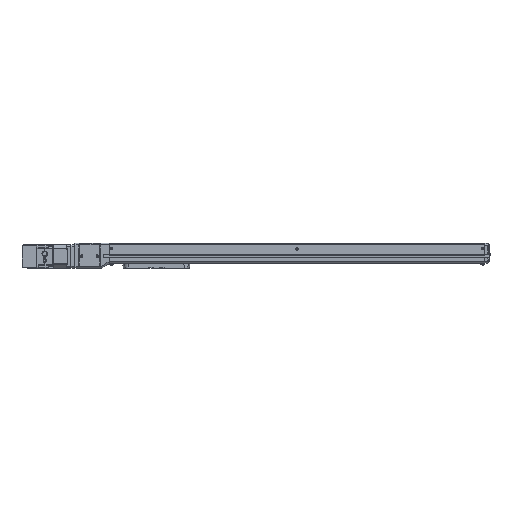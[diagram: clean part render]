
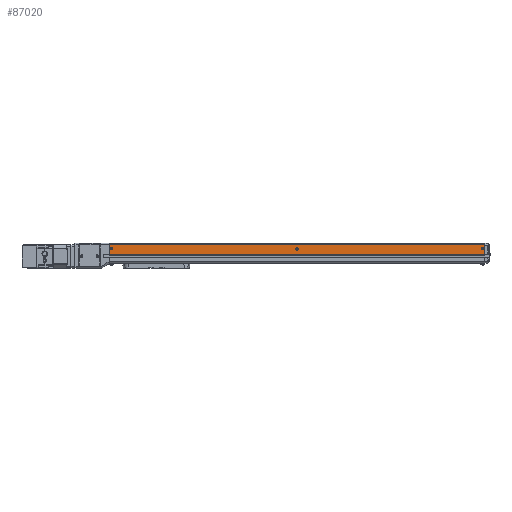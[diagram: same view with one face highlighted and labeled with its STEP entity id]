
A CAD part, top view. The second image highlights one B-rep face of the part: STEP entity #87020.
In plain terms, the highlighted planar face has unit normal (0, 0, 1) as drawn and (0, 0, -1) by its records, which use the part's own axes.
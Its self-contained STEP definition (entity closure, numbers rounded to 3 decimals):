
#68400 = PLANE('',#68401);
#68401 = AXIS2_PLACEMENT_3D('',#68402,#68403,#68404);
#68402 = CARTESIAN_POINT('',(-676.5,1.25,21.3));
#68403 = DIRECTION('',(1.,0.,0.));
#68404 = DIRECTION('',(0.,0.,-1.));
#68828 = PLANE('',#68829);
#68829 = AXIS2_PLACEMENT_3D('',#68830,#68831,#68832);
#68830 = CARTESIAN_POINT('',(-9.5,1.25,21.3));
#68831 = DIRECTION('',(1.,0.,0.));
#68832 = DIRECTION('',(0.,0.,-1.));
#86213 = VERTEX_POINT('',#86214);
#86214 = CARTESIAN_POINT('',(-676.5,-2.65,-21.5));
#86231 = CYLINDRICAL_SURFACE('',#86232,0.2);
#86232 = AXIS2_PLACEMENT_3D('',#86233,#86234,#86235);
#86233 = CARTESIAN_POINT('',(-676.5,-2.65,-21.3));
#86234 = DIRECTION('',(1.,0.,0.));
#86235 = DIRECTION('',(0.,0.,-1.));
#86243 = EDGE_CURVE('',#86244,#86213,#86246,.T.);
#86244 = VERTEX_POINT('',#86245);
#86245 = CARTESIAN_POINT('',(-676.5,-20.734,-21.5));
#86246 = SURFACE_CURVE('',#86247,(#86251,#86258),.PCURVE_S1.);
#86247 = LINE('',#86248,#86249);
#86248 = CARTESIAN_POINT('',(-676.5,-20.734,-21.5));
#86249 = VECTOR('',#86250,1.);
#86250 = DIRECTION('',(0.,1.,0.));
#86251 = PCURVE('',#68400,#86252);
#86252 = DEFINITIONAL_REPRESENTATION('',(#86253),#86257);
#86253 = LINE('',#86254,#86255);
#86254 = CARTESIAN_POINT('',(42.8,-21.984));
#86255 = VECTOR('',#86256,1.);
#86256 = DIRECTION('',(0.,1.));
#86257 = ( GEOMETRIC_REPRESENTATION_CONTEXT(2) 
PARAMETRIC_REPRESENTATION_CONTEXT() REPRESENTATION_CONTEXT('2D SPACE',''
  ) );
#86258 = PCURVE('',#86259,#86264);
#86259 = PLANE('',#86260);
#86260 = AXIS2_PLACEMENT_3D('',#86261,#86262,#86263);
#86261 = CARTESIAN_POINT('',(-676.5,-20.734,-21.5));
#86262 = DIRECTION('',(0.,0.,-1.));
#86263 = DIRECTION('',(-1.,0.,0.));
#86264 = DEFINITIONAL_REPRESENTATION('',(#86265),#86269);
#86265 = LINE('',#86266,#86267);
#86266 = CARTESIAN_POINT('',(0.,0.));
#86267 = VECTOR('',#86268,1.);
#86268 = DIRECTION('',(0.,1.));
#86269 = ( GEOMETRIC_REPRESENTATION_CONTEXT(2) 
PARAMETRIC_REPRESENTATION_CONTEXT() REPRESENTATION_CONTEXT('2D SPACE',''
  ) );
#86288 = CYLINDRICAL_SURFACE('',#86289,1.);
#86289 = AXIS2_PLACEMENT_3D('',#86290,#86291,#86292);
#86290 = CARTESIAN_POINT('',(-676.5,-20.734,-20.5));
#86291 = DIRECTION('',(1.,0.,0.));
#86292 = DIRECTION('',(0.,0.,-1.));
#86701 = VERTEX_POINT('',#86702);
#86702 = CARTESIAN_POINT('',(-9.5,-20.734,-21.5));
#86724 = EDGE_CURVE('',#86701,#86725,#86727,.T.);
#86725 = VERTEX_POINT('',#86726);
#86726 = CARTESIAN_POINT('',(-9.5,-2.65,-21.5));
#86727 = SURFACE_CURVE('',#86728,(#86732,#86739),.PCURVE_S1.);
#86728 = LINE('',#86729,#86730);
#86729 = CARTESIAN_POINT('',(-9.5,-20.734,-21.5));
#86730 = VECTOR('',#86731,1.);
#86731 = DIRECTION('',(0.,1.,0.));
#86732 = PCURVE('',#68828,#86733);
#86733 = DEFINITIONAL_REPRESENTATION('',(#86734),#86738);
#86734 = LINE('',#86735,#86736);
#86735 = CARTESIAN_POINT('',(42.8,-21.984));
#86736 = VECTOR('',#86737,1.);
#86737 = DIRECTION('',(0.,1.));
#86738 = ( GEOMETRIC_REPRESENTATION_CONTEXT(2) 
PARAMETRIC_REPRESENTATION_CONTEXT() REPRESENTATION_CONTEXT('2D SPACE',''
  ) );
#86739 = PCURVE('',#86259,#86740);
#86740 = DEFINITIONAL_REPRESENTATION('',(#86741),#86745);
#86741 = LINE('',#86742,#86743);
#86742 = CARTESIAN_POINT('',(-667.,0.));
#86743 = VECTOR('',#86744,1.);
#86744 = DIRECTION('',(0.,1.));
#86745 = ( GEOMETRIC_REPRESENTATION_CONTEXT(2) 
PARAMETRIC_REPRESENTATION_CONTEXT() REPRESENTATION_CONTEXT('2D SPACE',''
  ) );
#87000 = EDGE_CURVE('',#86244,#86701,#87001,.T.);
#87001 = SURFACE_CURVE('',#87002,(#87006,#87013),.PCURVE_S1.);
#87002 = LINE('',#87003,#87004);
#87003 = CARTESIAN_POINT('',(-676.5,-20.734,-21.5));
#87004 = VECTOR('',#87005,1.);
#87005 = DIRECTION('',(1.,0.,0.));
#87006 = PCURVE('',#86288,#87007);
#87007 = DEFINITIONAL_REPRESENTATION('',(#87008),#87012);
#87008 = LINE('',#87009,#87010);
#87009 = CARTESIAN_POINT('',(6.283,0.));
#87010 = VECTOR('',#87011,1.);
#87011 = DIRECTION('',(0.,1.));
#87012 = ( GEOMETRIC_REPRESENTATION_CONTEXT(2) 
PARAMETRIC_REPRESENTATION_CONTEXT() REPRESENTATION_CONTEXT('2D SPACE',''
  ) );
#87013 = PCURVE('',#86259,#87014);
#87014 = DEFINITIONAL_REPRESENTATION('',(#87015),#87019);
#87015 = LINE('',#87016,#87017);
#87016 = CARTESIAN_POINT('',(0.,0.));
#87017 = VECTOR('',#87018,1.);
#87018 = DIRECTION('',(-1.,0.));
#87019 = ( GEOMETRIC_REPRESENTATION_CONTEXT(2) 
PARAMETRIC_REPRESENTATION_CONTEXT() REPRESENTATION_CONTEXT('2D SPACE',''
  ) );
#87020 = ADVANCED_FACE('',(#87021,#87052,#87087,#87122),#86259,.T.);
#87021 = FACE_BOUND('',#87022,.T.);
#87022 = EDGE_LOOP('',(#87023));
#87023 = ORIENTED_EDGE('',*,*,#87024,.F.);
#87024 = EDGE_CURVE('',#87025,#87025,#87027,.T.);
#87025 = VERTEX_POINT('',#87026);
#87026 = CARTESIAN_POINT('',(-345.25,-13.5,-21.5));
#87027 = SURFACE_CURVE('',#87028,(#87033,#87040),.PCURVE_S1.);
#87028 = CIRCLE('',#87029,2.25);
#87029 = AXIS2_PLACEMENT_3D('',#87030,#87031,#87032);
#87030 = CARTESIAN_POINT('',(-343.,-13.5,-21.5));
#87031 = DIRECTION('',(0.,0.,-1.));
#87032 = DIRECTION('',(-1.,0.,0.));
#87033 = PCURVE('',#86259,#87034);
#87034 = DEFINITIONAL_REPRESENTATION('',(#87035),#87039);
#87035 = CIRCLE('',#87036,2.25);
#87036 = AXIS2_PLACEMENT_2D('',#87037,#87038);
#87037 = CARTESIAN_POINT('',(-333.5,7.234));
#87038 = DIRECTION('',(1.,0.));
#87039 = ( GEOMETRIC_REPRESENTATION_CONTEXT(2) 
PARAMETRIC_REPRESENTATION_CONTEXT() REPRESENTATION_CONTEXT('2D SPACE',''
  ) );
#87040 = PCURVE('',#87041,#87046);
#87041 = CONICAL_SURFACE('',#87042,2.25,0.087);
#87042 = AXIS2_PLACEMENT_3D('',#87043,#87044,#87045);
#87043 = CARTESIAN_POINT('',(-343.,-13.5,-21.5));
#87044 = DIRECTION('',(0.,0.,1.));
#87045 = DIRECTION('',(1.,0.,-0.));
#87046 = DEFINITIONAL_REPRESENTATION('',(#87047),#87051);
#87047 = LINE('',#87048,#87049);
#87048 = CARTESIAN_POINT('',(9.425,0.));
#87049 = VECTOR('',#87050,1.);
#87050 = DIRECTION('',(-1.,0.));
#87051 = ( GEOMETRIC_REPRESENTATION_CONTEXT(2) 
PARAMETRIC_REPRESENTATION_CONTEXT() REPRESENTATION_CONTEXT('2D SPACE',''
  ) );
#87052 = FACE_BOUND('',#87053,.T.);
#87053 = EDGE_LOOP('',(#87054));
#87054 = ORIENTED_EDGE('',*,*,#87055,.T.);
#87055 = EDGE_CURVE('',#87056,#87056,#87058,.T.);
#87056 = VERTEX_POINT('',#87057);
#87057 = CARTESIAN_POINT('',(-670.71,-14.5,-21.5));
#87058 = SURFACE_CURVE('',#87059,(#87064,#87075),.PCURVE_S1.);
#87059 = CIRCLE('',#87060,2.29);
#87060 = AXIS2_PLACEMENT_3D('',#87061,#87062,#87063);
#87061 = CARTESIAN_POINT('',(-673.,-14.5,-21.5));
#87062 = DIRECTION('',(0.,0.,1.));
#87063 = DIRECTION('',(1.,0.,-0.));
#87064 = PCURVE('',#86259,#87065);
#87065 = DEFINITIONAL_REPRESENTATION('',(#87066),#87074);
#87066 = ( BOUNDED_CURVE() B_SPLINE_CURVE(2,(#87067,#87068,#87069,#87070
    ,#87071,#87072,#87073),.UNSPECIFIED.,.T.,.F.) 
B_SPLINE_CURVE_WITH_KNOTS((1,2,2,2,2,1),(-2.094,0.,
    2.094,4.189,6.283,8.378),
.UNSPECIFIED.) CURVE() GEOMETRIC_REPRESENTATION_ITEM() 
RATIONAL_B_SPLINE_CURVE((1.,0.5,1.,0.5,1.,0.5,1.)) REPRESENTATION_ITEM(
  '') );
#87067 = CARTESIAN_POINT('',(-5.79,6.234));
#87068 = CARTESIAN_POINT('',(-5.79,10.201));
#87069 = CARTESIAN_POINT('',(-2.355,8.218));
#87070 = CARTESIAN_POINT('',(1.08,6.234));
#87071 = CARTESIAN_POINT('',(-2.355,4.251));
#87072 = CARTESIAN_POINT('',(-5.79,2.268));
#87073 = CARTESIAN_POINT('',(-5.79,6.234));
#87074 = ( GEOMETRIC_REPRESENTATION_CONTEXT(2) 
PARAMETRIC_REPRESENTATION_CONTEXT() REPRESENTATION_CONTEXT('2D SPACE',''
  ) );
#87075 = PCURVE('',#87076,#87081);
#87076 = CONICAL_SURFACE('',#87077,2.221,0.087);
#87077 = AXIS2_PLACEMENT_3D('',#87078,#87079,#87080);
#87078 = CARTESIAN_POINT('',(-673.,-14.5,-22.289));
#87079 = DIRECTION('',(0.,0.,1.));
#87080 = DIRECTION('',(1.,0.,-0.));
#87081 = DEFINITIONAL_REPRESENTATION('',(#87082),#87086);
#87082 = LINE('',#87083,#87084);
#87083 = CARTESIAN_POINT('',(0.,0.789));
#87084 = VECTOR('',#87085,1.);
#87085 = DIRECTION('',(1.,0.));
#87086 = ( GEOMETRIC_REPRESENTATION_CONTEXT(2) 
PARAMETRIC_REPRESENTATION_CONTEXT() REPRESENTATION_CONTEXT('2D SPACE',''
  ) );
#87087 = FACE_BOUND('',#87088,.T.);
#87088 = EDGE_LOOP('',(#87089));
#87089 = ORIENTED_EDGE('',*,*,#87090,.T.);
#87090 = EDGE_CURVE('',#87091,#87091,#87093,.T.);
#87091 = VERTEX_POINT('',#87092);
#87092 = CARTESIAN_POINT('',(-10.71,-14.5,-21.5));
#87093 = SURFACE_CURVE('',#87094,(#87099,#87110),.PCURVE_S1.);
#87094 = CIRCLE('',#87095,2.29);
#87095 = AXIS2_PLACEMENT_3D('',#87096,#87097,#87098);
#87096 = CARTESIAN_POINT('',(-13.,-14.5,-21.5));
#87097 = DIRECTION('',(0.,0.,1.));
#87098 = DIRECTION('',(1.,0.,-0.));
#87099 = PCURVE('',#86259,#87100);
#87100 = DEFINITIONAL_REPRESENTATION('',(#87101),#87109);
#87101 = ( BOUNDED_CURVE() B_SPLINE_CURVE(2,(#87102,#87103,#87104,#87105
    ,#87106,#87107,#87108),.UNSPECIFIED.,.T.,.F.) 
B_SPLINE_CURVE_WITH_KNOTS((1,2,2,2,2,1),(-2.094,0.,
    2.094,4.189,6.283,8.378),
.UNSPECIFIED.) CURVE() GEOMETRIC_REPRESENTATION_ITEM() 
RATIONAL_B_SPLINE_CURVE((1.,0.5,1.,0.5,1.,0.5,1.)) REPRESENTATION_ITEM(
  '') );
#87102 = CARTESIAN_POINT('',(-665.79,6.234));
#87103 = CARTESIAN_POINT('',(-665.79,10.201));
#87104 = CARTESIAN_POINT('',(-662.355,8.218));
#87105 = CARTESIAN_POINT('',(-658.92,6.234));
#87106 = CARTESIAN_POINT('',(-662.355,4.251));
#87107 = CARTESIAN_POINT('',(-665.79,2.268));
#87108 = CARTESIAN_POINT('',(-665.79,6.234));
#87109 = ( GEOMETRIC_REPRESENTATION_CONTEXT(2) 
PARAMETRIC_REPRESENTATION_CONTEXT() REPRESENTATION_CONTEXT('2D SPACE',''
  ) );
#87110 = PCURVE('',#87111,#87116);
#87111 = CONICAL_SURFACE('',#87112,2.221,0.087);
#87112 = AXIS2_PLACEMENT_3D('',#87113,#87114,#87115);
#87113 = CARTESIAN_POINT('',(-13.,-14.5,-22.289));
#87114 = DIRECTION('',(0.,0.,1.));
#87115 = DIRECTION('',(1.,0.,-0.));
#87116 = DEFINITIONAL_REPRESENTATION('',(#87117),#87121);
#87117 = LINE('',#87118,#87119);
#87118 = CARTESIAN_POINT('',(0.,0.789));
#87119 = VECTOR('',#87120,1.);
#87120 = DIRECTION('',(1.,0.));
#87121 = ( GEOMETRIC_REPRESENTATION_CONTEXT(2) 
PARAMETRIC_REPRESENTATION_CONTEXT() REPRESENTATION_CONTEXT('2D SPACE',''
  ) );
#87122 = FACE_BOUND('',#87123,.T.);
#87123 = EDGE_LOOP('',(#87124,#87125,#87126,#87127));
#87124 = ORIENTED_EDGE('',*,*,#86724,.F.);
#87125 = ORIENTED_EDGE('',*,*,#87000,.F.);
#87126 = ORIENTED_EDGE('',*,*,#86243,.T.);
#87127 = ORIENTED_EDGE('',*,*,#87128,.T.);
#87128 = EDGE_CURVE('',#86213,#86725,#87129,.T.);
#87129 = SURFACE_CURVE('',#87130,(#87134,#87141),.PCURVE_S1.);
#87130 = LINE('',#87131,#87132);
#87131 = CARTESIAN_POINT('',(-676.5,-2.65,-21.5));
#87132 = VECTOR('',#87133,1.);
#87133 = DIRECTION('',(1.,0.,0.));
#87134 = PCURVE('',#86259,#87135);
#87135 = DEFINITIONAL_REPRESENTATION('',(#87136),#87140);
#87136 = LINE('',#87137,#87138);
#87137 = CARTESIAN_POINT('',(0.,18.084));
#87138 = VECTOR('',#87139,1.);
#87139 = DIRECTION('',(-1.,0.));
#87140 = ( GEOMETRIC_REPRESENTATION_CONTEXT(2) 
PARAMETRIC_REPRESENTATION_CONTEXT() REPRESENTATION_CONTEXT('2D SPACE',''
  ) );
#87141 = PCURVE('',#86231,#87142);
#87142 = DEFINITIONAL_REPRESENTATION('',(#87143),#87147);
#87143 = LINE('',#87144,#87145);
#87144 = CARTESIAN_POINT('',(0.,0.));
#87145 = VECTOR('',#87146,1.);
#87146 = DIRECTION('',(0.,1.));
#87147 = ( GEOMETRIC_REPRESENTATION_CONTEXT(2) 
PARAMETRIC_REPRESENTATION_CONTEXT() REPRESENTATION_CONTEXT('2D SPACE',''
  ) );
